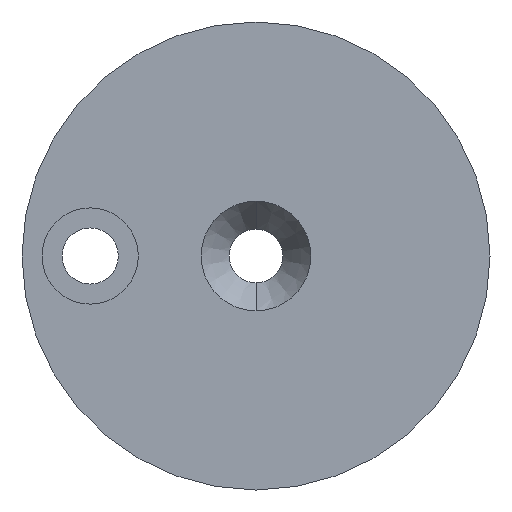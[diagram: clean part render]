
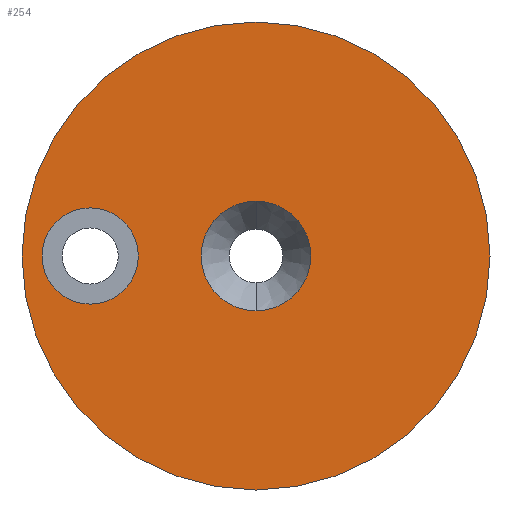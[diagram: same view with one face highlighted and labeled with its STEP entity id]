
A CAD part, left-side view. The second image highlights one B-rep face of the part: STEP entity #254.
In plain terms, the highlighted planar face has unit normal (-1, 0, 0).
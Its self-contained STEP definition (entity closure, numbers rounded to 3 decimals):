
#9 = AXIS2_PLACEMENT_3D ( 'NONE', #204, #253, #442 ) ;
#10 = AXIS2_PLACEMENT_3D ( 'NONE', #29, #353, #578 ) ;
#14 = DIRECTION ( 'NONE',  ( -1., 0., 0. ) ) ;
#24 = VERTEX_POINT ( 'NONE', #218 ) ;
#29 = CARTESIAN_POINT ( 'NONE',  ( 0., 0., 0. ) ) ;
#39 = CARTESIAN_POINT ( 'NONE',  ( 0., 0., -4.101 ) ) ;
#50 = EDGE_LOOP ( 'NONE', ( #111, #384 ) ) ;
#51 = CIRCLE ( 'NONE', #428, 3.6 ) ;
#82 = DIRECTION ( 'NONE',  ( 0., 0., 1. ) ) ;
#109 = ORIENTED_EDGE ( 'NONE', *, *, #433, .F. ) ;
#111 = ORIENTED_EDGE ( 'NONE', *, *, #471, .T. ) ;
#151 = DIRECTION ( 'NONE',  ( 0., 0., -1. ) ) ;
#163 = VERTEX_POINT ( 'NONE', #574 ) ;
#167 = DIRECTION ( 'NONE',  ( -1., 0., 0. ) ) ;
#170 = DIRECTION ( 'NONE',  ( -1., 0., 0. ) ) ;
#174 = AXIS2_PLACEMENT_3D ( 'NONE', #308, #249, #82 ) ;
#183 = CIRCLE ( 'NONE', #10, 4.101 ) ;
#188 = CARTESIAN_POINT ( 'NONE',  ( 0., 4.101, 0. ) ) ;
#196 = FACE_BOUND ( 'NONE', #563, .T. ) ;
#204 = CARTESIAN_POINT ( 'NONE',  ( 0., 0., 0. ) ) ;
#209 = EDGE_CURVE ( 'NONE', #292, #163, #288, .T. ) ;
#214 = CARTESIAN_POINT ( 'NONE',  ( 0., 0., -17.5 ) ) ;
#218 = CARTESIAN_POINT ( 'NONE',  ( 0., 12.4, 3.6 ) ) ;
#235 = CIRCLE ( 'NONE', #426, 17.5 ) ;
#249 = DIRECTION ( 'NONE',  ( -1., 0., 0. ) ) ;
#252 = CIRCLE ( 'NONE', #9, 4.101 ) ;
#253 = DIRECTION ( 'NONE',  ( -1., 0., 0. ) ) ;
#254 = ADVANCED_FACE ( 'NONE', ( #196, #375, #357 ), #564, .F. ) ;
#275 = CIRCLE ( 'NONE', #174, 3.6 ) ;
#281 = EDGE_CURVE ( 'NONE', #351, #24, #51, .T. ) ;
#282 = ORIENTED_EDGE ( 'NONE', *, *, #327, .F. ) ;
#285 = DIRECTION ( 'NONE',  ( 0., 0., 1. ) ) ;
#288 = CIRCLE ( 'NONE', #301, 17.5 ) ;
#292 = VERTEX_POINT ( 'NONE', #214 ) ;
#301 = AXIS2_PLACEMENT_3D ( 'NONE', #337, #14, #285 ) ;
#305 = VERTEX_POINT ( 'NONE', #39 ) ;
#308 = CARTESIAN_POINT ( 'NONE',  ( 0., 12.4, 0. ) ) ;
#327 = EDGE_CURVE ( 'NONE', #391, #305, #183, .T. ) ;
#337 = CARTESIAN_POINT ( 'NONE',  ( 0., 0., 0. ) ) ;
#351 = VERTEX_POINT ( 'NONE', #495 ) ;
#353 = DIRECTION ( 'NONE',  ( -1., 0., 0. ) ) ;
#357 = FACE_OUTER_BOUND ( 'NONE', #50, .T. ) ;
#375 = FACE_BOUND ( 'NONE', #588, .T. ) ;
#384 = ORIENTED_EDGE ( 'NONE', *, *, #209, .T. ) ;
#391 = VERTEX_POINT ( 'NONE', #504 ) ;
#398 = AXIS2_PLACEMENT_3D ( 'NONE', #188, #476, #151 ) ;
#407 = DIRECTION ( 'NONE',  ( 0., 0., 1. ) ) ;
#416 = ORIENTED_EDGE ( 'NONE', *, *, #522, .F. ) ;
#426 = AXIS2_PLACEMENT_3D ( 'NONE', #450, #167, #407 ) ;
#428 = AXIS2_PLACEMENT_3D ( 'NONE', #501, #170, #456 ) ;
#433 = EDGE_CURVE ( 'NONE', #24, #351, #275, .T. ) ;
#442 = DIRECTION ( 'NONE',  ( 0., 0., 1. ) ) ;
#450 = CARTESIAN_POINT ( 'NONE',  ( 0., 0., 0. ) ) ;
#454 = ORIENTED_EDGE ( 'NONE', *, *, #281, .F. ) ;
#456 = DIRECTION ( 'NONE',  ( 0., 0., 1. ) ) ;
#471 = EDGE_CURVE ( 'NONE', #163, #292, #235, .T. ) ;
#476 = DIRECTION ( 'NONE',  ( 1., 0., 0. ) ) ;
#495 = CARTESIAN_POINT ( 'NONE',  ( 0., 12.4, -3.6 ) ) ;
#501 = CARTESIAN_POINT ( 'NONE',  ( 0., 12.4, 0. ) ) ;
#504 = CARTESIAN_POINT ( 'NONE',  ( 0., 0., 4.101 ) ) ;
#522 = EDGE_CURVE ( 'NONE', #305, #391, #252, .T. ) ;
#563 = EDGE_LOOP ( 'NONE', ( #109, #454 ) ) ;
#564 = PLANE ( 'NONE',  #398 ) ;
#574 = CARTESIAN_POINT ( 'NONE',  ( 0., 0., 17.5 ) ) ;
#578 = DIRECTION ( 'NONE',  ( 0., 0., 1. ) ) ;
#588 = EDGE_LOOP ( 'NONE', ( #282, #416 ) ) ;
